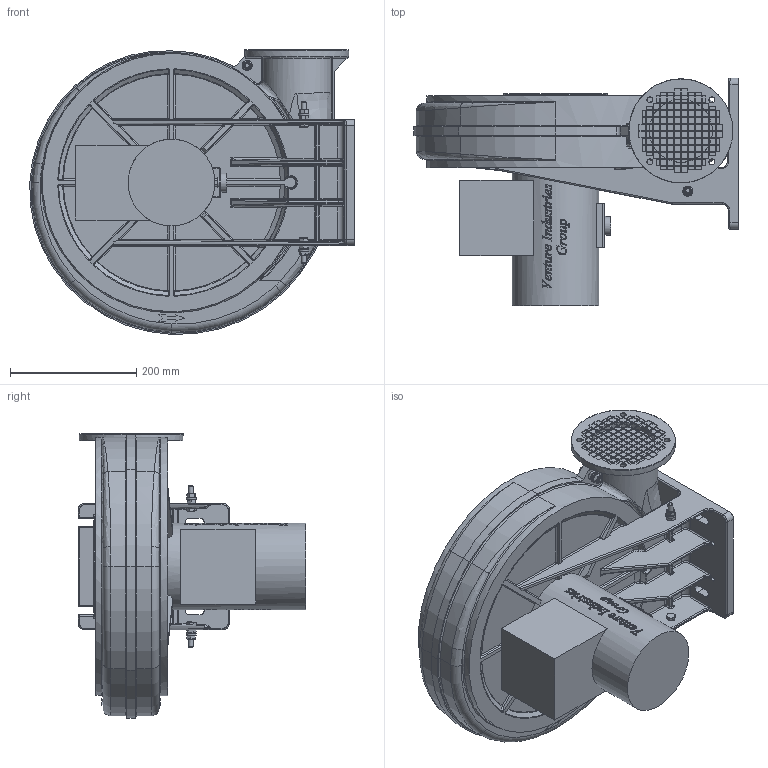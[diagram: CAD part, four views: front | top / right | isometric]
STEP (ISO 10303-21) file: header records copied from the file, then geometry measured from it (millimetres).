
FILE_DESCRIPTION(/* description */ (''),/* implementation_level */ '2;1');
FILE_NAME(/* name */ 'E:\Mariusz\Modele uproszczone\EBA\EBA 75\EBA_X_75X LG270 45519300\EBA_X_75X LG270 45519300.stp',/* time_stamp */ '2020-01-29T16:26:21+01:00',/* author */ ('M.Janczarek'),/* organization */ (''),/* preprocessor_version */ 'ST-DEVELOPER v16.13',/* originating_system */ 'Autodesk Inventor 2018',/* authorisation */ '');
FILE_SCHEMA (('AUTOMOTIVE_DESIGN { 1 0 10303 214 3 1 1 }'));
Products named in the file (1): EBA_X_75X LG270 45519300
Bounding box: 515 x 361.39 x 452 mm (x, y, z)
Volume: 23799808 mm3; surface area: 983407.2 mm2
Topology: 1 solids, 1 shells, 2752 faces, 7545 edges, 4831 vertices
Faces by surface type: plane 1436, bspline 807, cylinder 322, cone 68, torus 67, sphere 52
Full cylindrical faces by diameter (mm): 6.647 x5, 7 x2, 8 x4, 8.4 x2, 9.2 x8, 9.5 x4, 11.4 x3, 15 x1, 15.2 x1, 16 x4, 30 x1, 100 x1, 137.7 x1, 165 x4, 410 x2
Entity records: 107151 total; most frequent: CARTESIAN_POINT 39627, ORIENTED_EDGE 14808, DIRECTION 11161, EDGE_CURVE 7404, VERTEX_POINT 4782, LINE 4603, VECTOR 4603, EDGE_LOOP 3286
